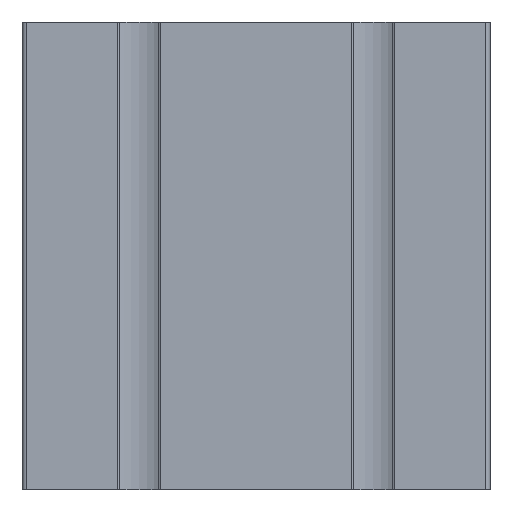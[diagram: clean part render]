
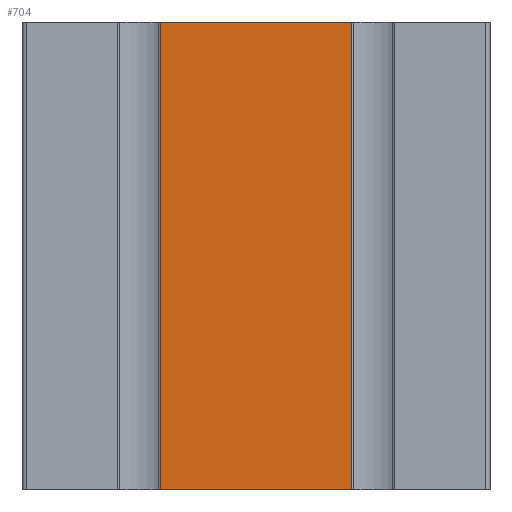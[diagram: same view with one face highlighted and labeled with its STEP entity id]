
A CAD part, front view. The second image highlights one B-rep face of the part: STEP entity #704.
In plain terms, the highlighted planar face has unit normal (0, -1, 0).
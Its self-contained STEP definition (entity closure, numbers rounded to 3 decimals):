
#263 = ORIENTED_EDGE ( 'NONE', *, *, #5976, .T. ) ;
#280 = DIRECTION ( 'NONE',  ( 0., 0., -1. ) ) ;
#331 = VERTEX_POINT ( 'NONE', #6124 ) ;
#683 = CARTESIAN_POINT ( 'NONE',  ( -20.5, -25., 50. ) ) ;
#704 = ADVANCED_FACE ( 'NONE', ( #4181 ), #6116, .F. ) ;
#737 = CARTESIAN_POINT ( 'NONE',  ( 20.5, -25., 50. ) ) ;
#1029 = VECTOR ( 'NONE', #280, 1000. ) ;
#1050 = DIRECTION ( 'NONE',  ( 1., 0., 0. ) ) ;
#1198 = CARTESIAN_POINT ( 'NONE',  ( 20.5, -25., 50. ) ) ;
#1412 = EDGE_CURVE ( 'NONE', #3614, #5563, #4967, .T. ) ;
#1540 = EDGE_CURVE ( 'NONE', #3255, #5563, #4377, .T. ) ;
#1550 = DIRECTION ( 'NONE',  ( 0., 0., -1. ) ) ;
#1978 = ORIENTED_EDGE ( 'NONE', *, *, #3246, .F. ) ;
#2028 = ORIENTED_EDGE ( 'NONE', *, *, #1540, .T. ) ;
#2044 = EDGE_LOOP ( 'NONE', ( #2028, #2264, #1978, #263 ) ) ;
#2264 = ORIENTED_EDGE ( 'NONE', *, *, #1412, .F. ) ;
#2285 = DIRECTION ( 'NONE',  ( 0., 1., 0. ) ) ;
#2965 = LINE ( 'NONE', #683, #5026 ) ;
#3246 = EDGE_CURVE ( 'NONE', #331, #3614, #4832, .T. ) ;
#3255 = VERTEX_POINT ( 'NONE', #4434 ) ;
#3277 = CARTESIAN_POINT ( 'NONE',  ( 0., -25., 50. ) ) ;
#3614 = VERTEX_POINT ( 'NONE', #1198 ) ;
#4181 = FACE_OUTER_BOUND ( 'NONE', #2044, .T. ) ;
#4377 = LINE ( 'NONE', #4414, #5589 ) ;
#4414 = CARTESIAN_POINT ( 'NONE',  ( 0., -25., -50. ) ) ;
#4434 = CARTESIAN_POINT ( 'NONE',  ( -20.5, -25., -50. ) ) ;
#4492 = AXIS2_PLACEMENT_3D ( 'NONE', #3277, #2285, #4620 ) ;
#4620 = DIRECTION ( 'NONE',  ( 0., 0., 1. ) ) ;
#4832 = LINE ( 'NONE', #5744, #6063 ) ;
#4937 = DIRECTION ( 'NONE',  ( 1., 0., 0. ) ) ;
#4967 = LINE ( 'NONE', #737, #1029 ) ;
#5026 = VECTOR ( 'NONE', #1550, 1000. ) ;
#5466 = CARTESIAN_POINT ( 'NONE',  ( 20.5, -25., -50. ) ) ;
#5563 = VERTEX_POINT ( 'NONE', #5466 ) ;
#5589 = VECTOR ( 'NONE', #4937, 1000. ) ;
#5744 = CARTESIAN_POINT ( 'NONE',  ( 0., -25., 50. ) ) ;
#5976 = EDGE_CURVE ( 'NONE', #331, #3255, #2965, .T. ) ;
#6063 = VECTOR ( 'NONE', #1050, 1000. ) ;
#6116 = PLANE ( 'NONE',  #4492 ) ;
#6124 = CARTESIAN_POINT ( 'NONE',  ( -20.5, -25., 50. ) ) ;
